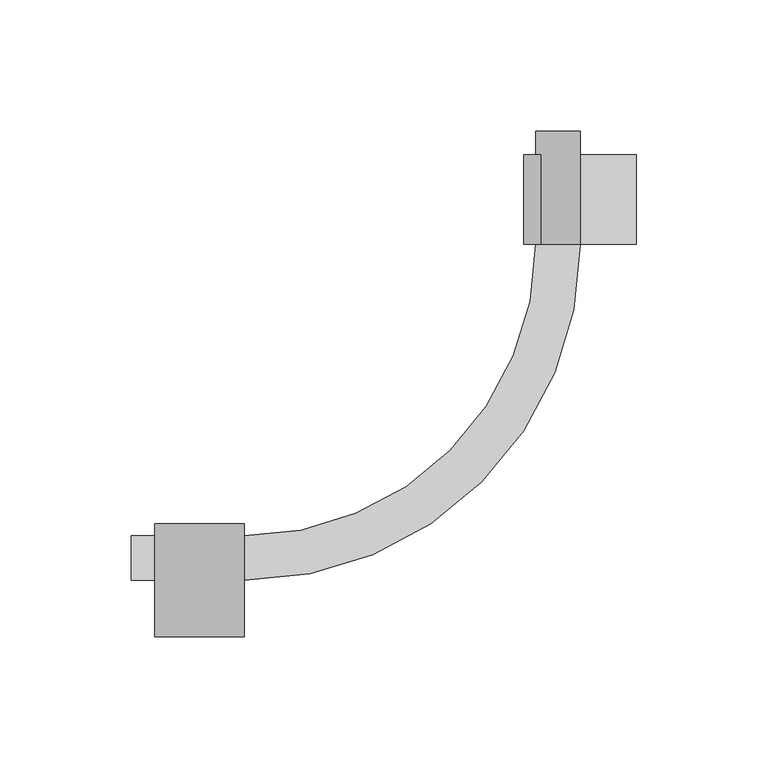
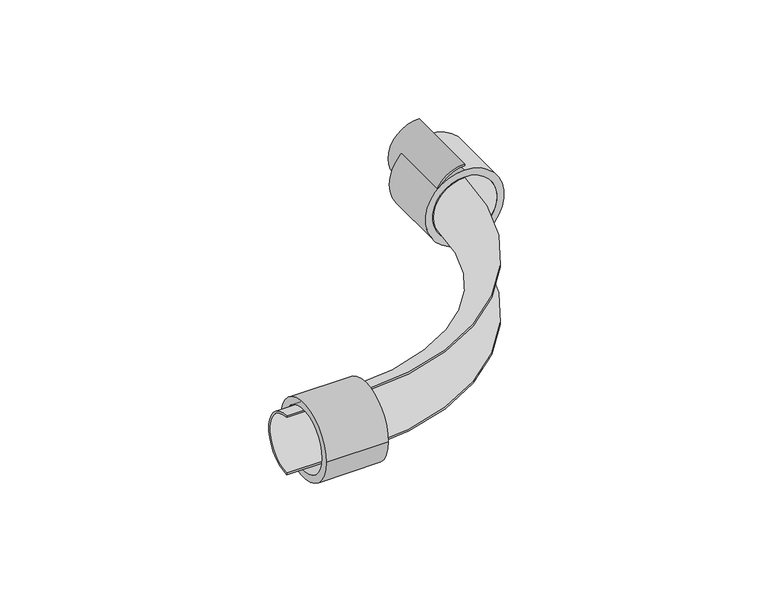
"""IFC4 building model written with IfcOpenShell, lengths in millimetres: pipe fitting geometry, REHAU_RAUTITAN_Pipe bend former sanitary : REHAU_RAUTITAN_Pipe bend former sanitary."""

from ifc_helpers import new_model, si_unit, point, frame, frame_2d, origin, origin_2d, place, context, project, spatial, polyline, circle_curve, ellipse_curve, trimmed, segment, composite_curve, outline, extrude, source, transform, mapped, element, save
from ifc_brep_helpers import plane_surface, cylinder_surface, revolved_surface, advanced_brep


def pipe_fitting_f062a770(model_context):
    return source(origin(), model_context, "Body", "SolidModel", [
        advanced_brep(
        [(-128.0, 0.0, 17.0), (-128.0, 0.0, -17.0), (-128.0, 0.0, -16.0), (-128.0, 0.0, 16.0), (0.0, 128.0, 17.0), (0.0, 128.0, 16.0), (0.0, 128.0, -16.0), (0.0, 128.0, -17.0)],
        [
            (0, 1, circle_curve(frame((-128.0, 0.0, 0.0), z_axis=(-1.0, 0.0, 0.0), x_axis=(0.0, 1.0, 0.0)), 17.0)),
            (1, 2),
            (2, 3, circle_curve(frame((-128.0, 0.0, 0.0), z_axis=(1.0, 0.0, 0.0), x_axis=(0.0, 1.0, 0.0)), 16.0)),
            (3, 0),
            (4, 5),
            (5, 6, circle_curve(frame((0.0, 128.0, 0.0), z_axis=(0.0, -1.0, 0.0), x_axis=(-1.0, 0.0, 0.0)), 16.0)),
            (6, 7),
            (7, 4, circle_curve(frame((0.0, 128.0, 0.0), z_axis=(0.0, 1.0, 0.0), x_axis=(-1.0, 0.0, 0.0)), 17.0)),
            (4, 0, circle_curve(frame((-128.0, 128.0, 17.0), z_axis=(0.0, 0.0, -1.0), x_axis=(0.0, -1.0, 0.0)), 128.0)),
            (3, 5, circle_curve(frame((-128.0, 128.0, 16.0), z_axis=(0.0, 0.0, 1.0), x_axis=(0.0, -1.0, 0.0)), 128.0)),
            (6, 2, circle_curve(frame((-128.0, 128.0, -16.0), z_axis=(0.0, 0.0, -1.0), x_axis=(0.0, -1.0, 0.0)), 128.0)),
            (1, 7, circle_curve(frame((-128.0, 128.0, -17.0), z_axis=(0.0, 0.0, 1.0), x_axis=(0.0, -1.0, 0.0)), 128.0)),
        ],
        [
            plane_surface(frame((-128.0, 0.0, 0.0), z_axis=(-1.0, 0.0, 0.0), x_axis=(0.0, 0.0, 1.0))),
            plane_surface(frame((0.0, 128.0, 0.0), z_axis=(0.0, 1.0, 0.0), x_axis=(0.0, 0.0, 1.0))),
            cylinder_surface(frame((-128.0, 128.0, 0.0), z_axis=(0.0, 0.0, 1.0), x_axis=(0.0, -1.0, 0.0)), 128.0),
            revolved_surface(trimmed(ellipse_curve(frame((-128.0, 0.0, 0.0), z_axis=(-1.0, 0.0, 0.0), x_axis=(0.0, 1.0, 0.0)), 17.0, 17.0), [point((-128.0, 0.0, 17.0))], [point((-128.0, 0.0, -17.0))], True, "CARTESIAN"), (-128.0, 128.0, 0.0), (0.0, 0.0, 1.0)),
            revolved_surface(trimmed(ellipse_curve(frame((-128.0, 0.0, 0.0), z_axis=(1.0, 0.0, 0.0), x_axis=(0.0, 1.0, 0.0)), 16.0, 16.0), [point((-128.0, 0.0, -16.0))], [point((-128.0, 0.0, 16.0))], True, "CARTESIAN"), (-128.0, 128.0, 0.0), (0.0, 0.0, 1.0)),
        ],
        [
            (0, [[1, 2, 3, 4]]),
            (1, [[5, 6, 7, 8]]),
            (2, [[9, -4, 10, -5]]),
            (2, [[11, -2, 12, -7]]),
            (3, [[-12, -1, -9, -8]]),
            (4, [[-10, -3, -11, -6]]),
        ],
    ),
        extrude(outline(composite_curve([segment(trimmed(circle_curve(origin_2d(), 21.5), [point((21.5, 0.0))], [point((-21.5, 0.0))], False, "CARTESIAN"), True, "CONTINUOUS"), segment(trimmed(circle_curve(origin_2d(), 21.5), [point((-21.5, 0.0))], [point((21.5, 0.0))], False, "CARTESIAN"), True, "CONTINUOUS")], self_intersect=False), holes=[composite_curve([segment(trimmed(circle_curve(origin_2d(), 17.5), [point((17.5, 0.0))], [point((-17.5, 0.0))], True, "CARTESIAN"), True, "CONTINUOUS"), segment(trimmed(circle_curve(origin_2d(), 17.5), [point((-17.5, 0.0))], [point((17.5, 0.0))], True, "CARTESIAN"), True, "CONTINUOUS")], self_intersect=False)]), frame((-162.0, 0.0, 0.0), z_axis=(1.0, 0.0, 0.0), x_axis=(0.0, 1.0, 0.0)), (0.0, 0.0, 1.0), 34.0),
        extrude(outline(composite_curve([segment(trimmed(circle_curve(origin_2d(), 21.5), [point((-21.5, 0.0))], [point((21.5, 0.0))], False, "CARTESIAN"), True, "CONTINUOUS"), segment(trimmed(circle_curve(origin_2d(), 21.5), [point((21.5, 0.0))], [point((-21.5, 0.0))], False, "CARTESIAN"), True, "CONTINUOUS")], self_intersect=False), holes=[composite_curve([segment(trimmed(circle_curve(origin_2d(), 17.5), [point((-17.5, 0.0))], [point((17.5, 0.0))], True, "CARTESIAN"), True, "CONTINUOUS"), segment(trimmed(circle_curve(origin_2d(), 17.5), [point((17.5, 0.0))], [point((-17.5, 0.0))], True, "CARTESIAN"), True, "CONTINUOUS")], self_intersect=False)]), frame((0.0, 128.0, 0.0), z_axis=(0.0, 1.0, 0.0), x_axis=(0.0, 0.0, 1.0)), (0.0, 0.0, 1.0), 34.0),
        extrude(outline(composite_curve([segment(polyline([(0.0, 16.0), (0.0, 17.0)]), True, "CONTINUOUS"), segment(trimmed(circle_curve(origin_2d(), 17.0), [point((0.0, 17.0))], [point((0.0, -17.0))], False, "CARTESIAN"), True, "CONTINUOUS"), segment(polyline([(0.0, -17.0), (0.0, -16.0)]), True, "CONTINUOUS"), segment(trimmed(circle_curve(origin_2d(), 16.0), [point((0.0, -16.0))], [point((0.0, 16.0))], True, "CARTESIAN"), True, "CONTINUOUS")], self_intersect=False)), frame((-171.0, 0.0, 0.0), z_axis=(1.0, 0.0, 0.0), x_axis=(0.0, 1.0, 0.0)), (0.0, 0.0, 1.0), 43.0),
        extrude(outline(composite_curve([segment(polyline([(24.0015807, 0.0), (25.0015807, 0.0)]), True, "CONTINUOUS"), segment(trimmed(circle_curve(frame_2d((8.0015807, 0.0)), 17.0), [point((25.0015807, 0.0))], [point((-8.9984193, 0.0))], False, "CARTESIAN"), True, "CONTINUOUS"), segment(polyline([(-8.9984193, 0.0), (-7.9984193, 0.0)]), True, "CONTINUOUS"), segment(trimmed(circle_curve(frame_2d((8.0015807, 0.0)), 16.0), [point((-7.9984193, 0.0))], [point((24.0015807, 0.0))], True, "CARTESIAN"), True, "CONTINUOUS")], self_intersect=False)), frame((0.0, 128.0, 0.0), z_axis=(0.0, 1.0, 0.0), x_axis=(0.0, 0.0, 1.0)), (0.0, 0.0, 1.0), 43.0),
    ])


if __name__ == "__main__":
    model = new_model("IFC4")
    model_context = context("Model", 3, world=origin())
    ifc_project = project(units=[si_unit("LENGTHUNIT", "METRE", prefix="MILLI")], contexts=[model_context])
    site = spatial("IfcSite", under=ifc_project)
    building = spatial("IfcBuilding", under=site)
    placement = place(None, origin())
    pipe_fitting_shape = pipe_fitting_f062a770(model_context)
    element("IfcPipeFitting", 1, ObjectType="REHAU_RAUTITAN_Pipe bend former sanitary : REHAU_RAUTITAN_Pipe bend former sanitary", at=placement, inside=building, context=model_context, shape_type="MappedRepresentation", body=[
        mapped(pipe_fitting_shape, transform((0.0, 0.0, 0.0), x_axis=(1.0, 0.0, 0.0), y_axis=(0.0, 1.0, 0.0), z_axis=(0.0, 0.0, 1.0))),
    ])
    save(model, "model.ifc")
